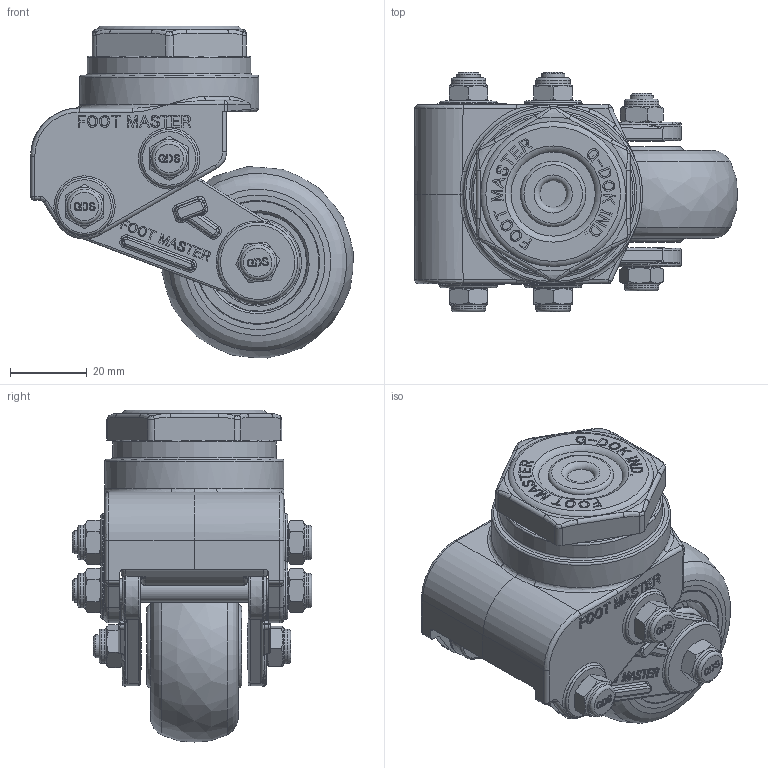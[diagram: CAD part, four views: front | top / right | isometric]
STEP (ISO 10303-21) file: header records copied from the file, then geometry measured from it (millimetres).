
FILE_DESCRIPTION(/* description */ (''),/* implementation_level */ '2;1');
FILE_NAME(/* name */ 'C:\Users\admin\Desktop\JYS\개발품\상세설계_20220328\홈페이지용 도면\GDSA-50-ASS-EUS-PUS.stp',/* time_stamp */ '2023-03-08T16:03:10+09:00',/* author */ ('admin'),/* organization */ (''),/* preprocessor_version */ 'ST-DEVELOPER v18.1',/* originating_system */ 'Autodesk Inventor 2021',/* authorisation */ '');
FILE_SCHEMA (('AUTOMOTIVE_DESIGN { 1 0 10303 214 3 1 1 }','PROCESS_PLANNING_SCHEMA'));
Products named in the file (1): GDS-50_ASS-AGV,AMR_Shrinkwrap_1
Bounding box: 83.87 x 62.3 x 86.27 mm (x, y, z)
Volume: 113590.1 mm3; surface area: 37510.9 mm2
Topology: 1 solids, 1 shells, 1967 faces, 5166 edges, 3311 vertices
Faces by surface type: plane 776, bspline 666, cylinder 246, cone 150, torus 117, sphere 12
Full cylindrical faces by diameter (mm): 6 x5, 8.8 x3, 9 x6, 17.216 x2, 18 x1, 20 x2, 22 x2, 22.784 x2, 30 x1, 42.5 x1, 46.5 x1
Entity records: 68040 total; most frequent: CARTESIAN_POINT 21810, ORIENTED_EDGE 10300, DIRECTION 7333, EDGE_CURVE 5150, VERTEX_POINT 3311, LINE 2511, VECTOR 2511, AXIS2_PLACEMENT_3D 2411
